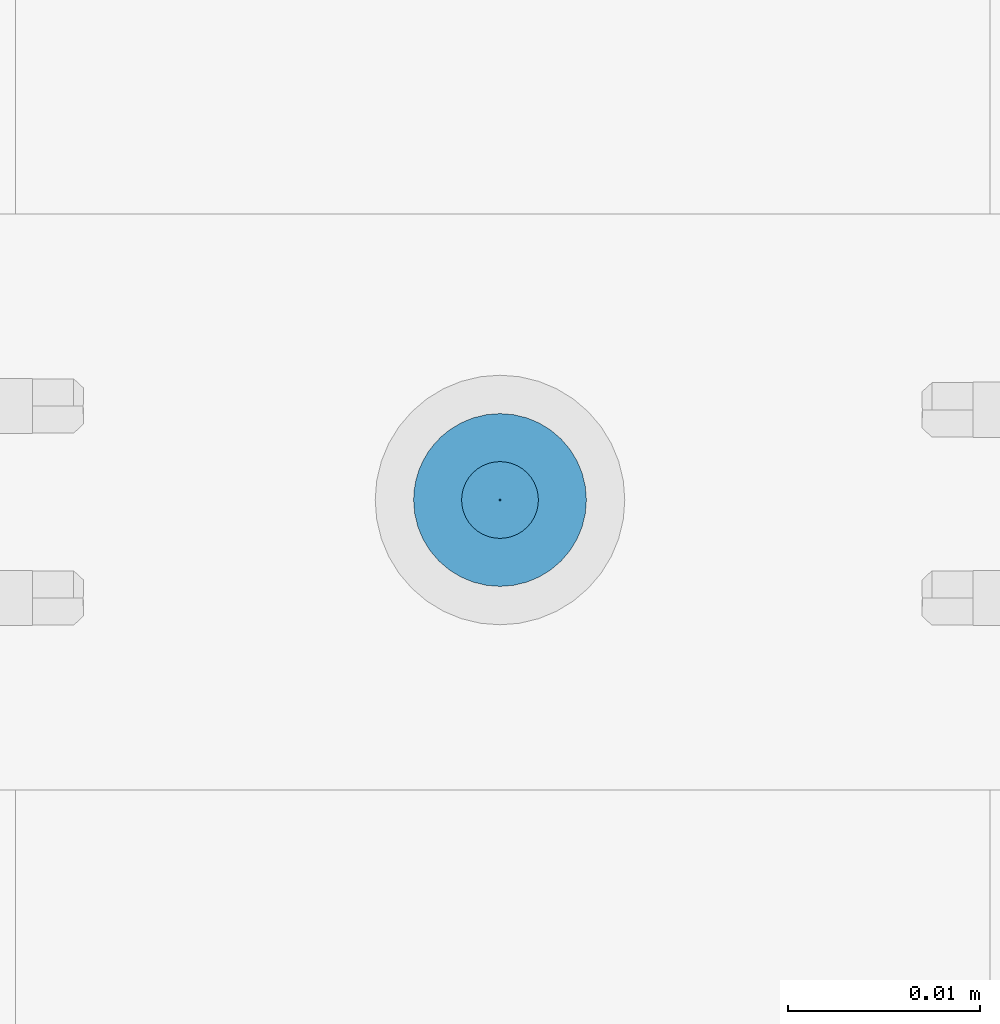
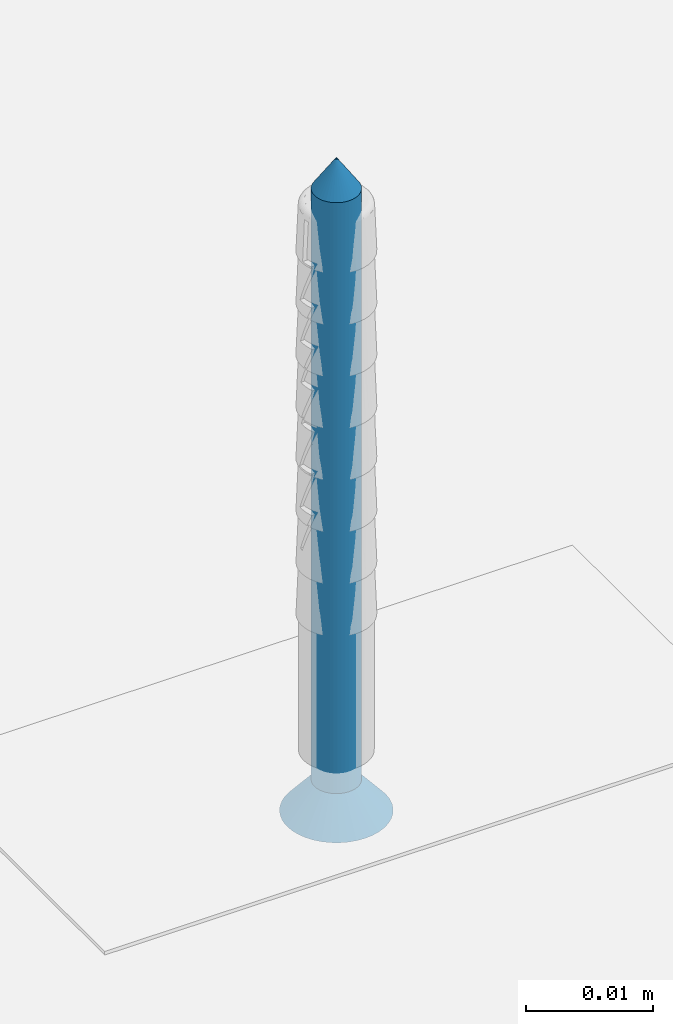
# One storey, part 9 of 62: 1 slab.
"""IFC2X3 building model written with IfcOpenShell, lengths in millimetres."""

from ifc_helpers import new_model, entity, si_unit, converted_unit, direction, frame, origin, origin_with_axes, place, context, project, spatial, faceted_brep, element, save


model = new_model("IFC2X3")

# Units and contexts
model_context = context("Model", 3, precision=1e-05, world=origin(), true_north=direction((0.0, 1.0, 0.0)))
ifc_project = project(units=[si_unit("LENGTHUNIT", "METRE", prefix="MILLI"), si_unit("AREAUNIT", "SQUARE_METRE"), si_unit("VOLUMEUNIT", "CUBIC_METRE"), converted_unit("PLANEANGLEUNIT", "DEGREE", entity("IfcPlaneAngleMeasure", 0.01745), si_unit("PLANEANGLEUNIT", "RADIAN"), dimensions=[0, 0, 0, 0, 0, 0, 0]), si_unit("SOLIDANGLEUNIT", "STERADIAN"), si_unit("MASSUNIT", "GRAM"), si_unit("TIMEUNIT", "SECOND"), si_unit("THERMODYNAMICTEMPERATUREUNIT", "DEGREE_CELSIUS"), si_unit("LUMINOUSINTENSITYUNIT", "LUMEN")], contexts=[model_context])

# Site, building, storey
site_placement = place(None, origin_with_axes())
site = spatial("IfcSite", under=ifc_project, at=site_placement, Name="Default Site", CompositionType="ELEMENT")
building_placement = place(site_placement, origin_with_axes())
building = spatial("IfcBuilding", under=site, at=building_placement, Name="Default Building", CompositionType="ELEMENT")
storey_placement = place(building_placement, origin_with_axes())
storey = spatial("IfcBuildingStorey", under=building, at=storey_placement, Name="Default Building Storey", CompositionType="ELEMENT", Elevation=0.0)

# Slab
slab_placement = place(storey_placement, frame((6216.179814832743, 408.8922130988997, 1384.974461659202), z_axis=(-6.858158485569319e-13, 6.095830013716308e-13, -1.0), x_axis=(-1.647602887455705e-11, -1.0, -6.095830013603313e-13)))
element("IfcSlab", 1, at=slab_placement, inside=storey, Name="Stalowe elementy mocujące", context=model_context, shape_type="Brep", body=[
    faceted_brep([(-1438.31414949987, 3453.283223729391, -0.4642567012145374), (-1435.814149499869, 3453.283223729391, -3.464256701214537), (-1435.78952618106, 3452.97035479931, -3.464256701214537), (-1438.258747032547, 3452.57926863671, -0.4642567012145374), (-1435.71626253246, 3452.665189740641, -3.464256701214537), (-1438.093903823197, 3451.892647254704, -0.4642567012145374), (-1435.596162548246, 3452.375242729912, -3.464256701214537), (-1437.823678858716, 3451.240266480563, -0.4642567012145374), (-1435.432183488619, 3452.107653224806, -3.464256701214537), (-1437.454725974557, 3450.638190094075, -0.4642567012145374), (-1435.228363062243, 3451.869010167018, -3.464256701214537), (-1436.996130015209, 3450.101243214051, -0.4642567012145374), (-1434.989720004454, 3451.665189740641, -3.464256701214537), (-1436.459183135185, 3449.642647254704, -0.4642567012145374), (-1434.722130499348, 3451.501210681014, -3.464256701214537), (-1435.857106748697, 3449.273694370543, -0.4642567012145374), (-1434.432183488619, 3451.381110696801, -3.464256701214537), (-1435.204725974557, 3449.003469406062, -0.4642567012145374), (-1434.12701842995, 3451.307847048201, -3.464256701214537), (-1434.51810459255, 3448.838626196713, -0.4642567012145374), (-1433.814149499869, 3451.283223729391, -3.464256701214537), (-1433.814149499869, 3448.783223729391, -0.4642567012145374), (-1433.501280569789, 3451.307847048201, -3.464256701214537), (-1433.110194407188, 3448.838626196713, -0.4642567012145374), (-1433.19611551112, 3451.381110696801, -3.464256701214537), (-1432.423573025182, 3449.003469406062, -0.4642567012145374), (-1432.906168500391, 3451.501210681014, -3.464256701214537), (-1431.771192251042, 3449.273694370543, -0.4642567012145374), (-1432.638578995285, 3451.665189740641, -3.464256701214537), (-1431.169115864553, 3449.642647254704, -0.4642567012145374), (-1432.399935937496, 3451.869010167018, -3.464256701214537), (-1430.63216898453, 3450.101243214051, -0.4642567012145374), (-1432.196115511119, 3452.107653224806, -3.464256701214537), (-1430.173573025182, 3450.638190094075, -0.4642567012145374), (-1432.032136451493, 3452.375242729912, -3.464256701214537), (-1429.804620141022, 3451.240266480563, -0.4642567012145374), (-1431.912036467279, 3452.665189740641, -3.464256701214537), (-1429.534395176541, 3451.892647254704, -0.4642567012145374), (-1431.838772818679, 3453.596092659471, -3.464256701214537), (-1429.369551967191, 3453.987178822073, -0.4642567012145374), (-1429.314149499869, 3453.283223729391, -0.4642567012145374), (-1431.81414949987, 3453.283223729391, -3.464256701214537), (-1429.369551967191, 3452.57926863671, -0.4642567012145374), (-1431.838772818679, 3452.97035479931, -3.464256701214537), (-1431.912036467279, 3453.901257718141, -3.464256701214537), (-1429.534395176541, 3454.673800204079, -0.4642567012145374), (-1432.032136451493, 3454.19120472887, -3.464256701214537), (-1429.804620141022, 3455.326180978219, -0.4642567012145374), (-1432.196115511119, 3454.458794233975, -3.464256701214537), (-1430.173573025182, 3455.928257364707, -0.4642567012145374), (-1432.399935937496, 3454.697437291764, -3.464256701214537), (-1430.63216898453, 3456.465204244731, -0.4642567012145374), (-1432.638578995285, 3454.901257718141, -3.464256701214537), (-1431.169115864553, 3456.923800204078, -0.4642567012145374), (-1432.906168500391, 3455.065236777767, -3.464256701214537), (-1431.771192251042, 3457.292753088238, -0.4642567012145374), (-1433.19611551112, 3455.185336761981, -3.464256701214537), (-1432.423573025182, 3457.562978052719, -0.4642567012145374), (-1433.501280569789, 3455.258600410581, -3.464256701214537), (-1433.110194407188, 3457.727821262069, -0.4642567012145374), (-1433.814149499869, 3455.283223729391, -3.464256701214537), (-1433.814149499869, 3457.783223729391, -0.4642567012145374), (-1434.34306778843, 3457.752031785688, -0.4642567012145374), (-1434.12701842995, 3455.258600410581, -3.464256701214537), (-1434.432183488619, 3455.185336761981, -3.464256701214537), (-1434.864653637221, 3457.658888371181, -0.4642567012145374), (-1435.371676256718, 3457.505084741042, -0.4642567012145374), (-1434.722130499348, 3455.065236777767, -3.464256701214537), (-1435.857106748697, 3457.292753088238, -0.4642567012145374), (-1434.989720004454, 3454.901257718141, -3.464256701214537), (-1435.228363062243, 3454.697437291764, -3.464256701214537), (-1436.314215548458, 3457.024836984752, -0.4642567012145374), (-1436.736665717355, 3456.705050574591, -0.4642567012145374), (-1437.11860079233, 3456.337827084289, -0.4642567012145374), (-1437.454725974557, 3455.928257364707, -0.4642567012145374), (-1435.432183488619, 3454.458794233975, -3.464256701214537), (-1435.596162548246, 3454.19120472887, -3.464256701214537), (-1437.823678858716, 3455.326180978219, -0.4642567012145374), (-1435.71626253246, 3453.901257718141, -3.464256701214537), (-1438.093903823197, 3454.673800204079, -0.4642567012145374), (-1435.78952618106, 3453.596092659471, -3.464256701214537), (-1438.258747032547, 3453.987178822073, -0.4642567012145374), (-1434.205235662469, 3455.752444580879, 0.2007375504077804), (-1433.814149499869, 3455.78322372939, 0.2007375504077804), (-1434.586691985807, 3455.660865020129, 0.2007375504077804), (-1434.949125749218, 3455.510740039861, 0.2007375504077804), (-1435.283612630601, 3455.305766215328, 0.2007375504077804), (-1435.581916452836, 3455.050990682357, 0.2007375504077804), (-1435.836691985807, 3454.752686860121, 0.2007375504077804), (-1436.04166581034, 3454.41819997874, 0.2007375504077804), (-1436.191790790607, 3454.055766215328, 0.2007375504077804), (-1436.283370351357, 3453.674309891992, 0.2007375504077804), (-1436.314149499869, 3453.283223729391, 0.2007375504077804), (-1436.283370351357, 3452.892137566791, 0.2007375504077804), (-1436.191790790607, 3452.510681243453, 0.2007375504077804), (-1436.04166581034, 3452.148247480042, 0.2007375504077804), (-1435.836691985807, 3451.81376059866, 0.200737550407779), (-1435.581916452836, 3451.515456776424, 0.2007375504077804), (-1435.283612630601, 3451.260681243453, 0.2007375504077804), (-1434.949125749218, 3451.05570741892, 0.2007375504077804), (-1434.586691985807, 3450.905582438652, 0.2007375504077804), (-1433.423063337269, 3450.814002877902, 0.2007375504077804), (-1433.814149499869, 3450.783223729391, 0.2007375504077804), (-1434.205235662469, 3450.814002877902, 0.2007375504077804), (-1433.041607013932, 3450.905582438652, 0.2007375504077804), (-1432.67917325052, 3451.05570741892, 0.2007375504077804), (-1432.344686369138, 3451.260681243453, 0.2007375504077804), (-1432.046382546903, 3451.515456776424, 0.2007375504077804), (-1431.791607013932, 3451.81376059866, 0.2007375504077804), (-1431.586633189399, 3452.148247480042, 0.2007375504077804), (-1431.436508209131, 3452.510681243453, 0.2007375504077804), (-1431.344928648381, 3452.892137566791, 0.2007375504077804), (-1431.314149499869, 3453.283223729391, 0.2007375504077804), (-1431.344928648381, 3453.674309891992, 0.2007375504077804), (-1431.436508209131, 3454.055766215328, 0.2007375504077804), (-1431.586633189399, 3454.41819997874, 0.2007375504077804), (-1431.791607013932, 3454.752686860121, 0.2007375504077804), (-1432.046382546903, 3455.050990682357, 0.2007375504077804), (-1432.344686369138, 3455.305766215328, 0.2007375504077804), (-1432.67917325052, 3455.510740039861, 0.2007375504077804), (-1433.041607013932, 3455.660865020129, 0.2007375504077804), (-1433.423063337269, 3455.752444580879, 0.2007375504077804), (-1433.814149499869, 3453.283223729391, -63.46425670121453), (-1435.789526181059, 3452.97035479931, -60.46425670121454), (-1435.814149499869, 3453.283223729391, -60.46425670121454), (-1435.716262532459, 3452.665189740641, -60.46425670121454), (-1435.596162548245, 3452.375242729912, -60.46425670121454), (-1435.432183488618, 3452.107653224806, -60.46425670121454), (-1435.228363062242, 3451.869010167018, -60.46425670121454), (-1434.989720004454, 3451.665189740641, -60.46425670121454), (-1434.722130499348, 3451.501210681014, -60.46425670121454), (-1434.432183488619, 3451.381110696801, -60.46425670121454), (-1434.127018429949, 3451.307847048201, -60.46425670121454), (-1433.814149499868, 3451.283223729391, -60.46425670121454), (-1433.501280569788, 3451.307847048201, -60.46425670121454), (-1433.196115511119, 3451.381110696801, -60.46425670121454), (-1432.90616850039, 3451.501210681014, -60.46425670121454), (-1432.638578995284, 3451.665189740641, -60.46425670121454), (-1432.399935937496, 3451.869010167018, -60.46425670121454), (-1432.196115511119, 3452.107653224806, -60.46425670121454), (-1432.032136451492, 3452.375242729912, -60.46425670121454), (-1431.912036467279, 3452.665189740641, -60.46425670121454), (-1431.838772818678, 3452.97035479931, -60.46425670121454), (-1431.814149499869, 3453.283223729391, -60.46425670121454), (-1431.838772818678, 3453.596092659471, -60.46425670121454), (-1431.912036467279, 3453.901257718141, -60.46425670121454), (-1432.032136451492, 3454.19120472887, -60.46425670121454), (-1432.196115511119, 3454.458794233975, -60.46425670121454), (-1432.399935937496, 3454.697437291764, -60.46425670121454), (-1432.638578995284, 3454.901257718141, -60.46425670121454), (-1432.90616850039, 3455.065236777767, -60.46425670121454), (-1433.196115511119, 3455.185336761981, -60.46425670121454), (-1433.501280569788, 3455.258600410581, -60.46425670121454), (-1433.814149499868, 3455.283223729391, -60.46425670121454), (-1434.127018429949, 3455.258600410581, -60.46425670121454), (-1434.432183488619, 3455.185336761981, -60.46425670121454), (-1434.722130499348, 3455.065236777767, -60.46425670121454), (-1434.989720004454, 3454.901257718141, -60.46425670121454), (-1435.228363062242, 3454.697437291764, -60.46425670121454), (-1435.432183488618, 3454.458794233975, -60.46425670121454), (-1435.596162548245, 3454.19120472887, -60.46425670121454), (-1435.716262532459, 3453.901257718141, -60.46425670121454), (-1435.789526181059, 3453.596092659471, -60.46425670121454), (-1435.814149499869, 3453.783223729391, 0.04999999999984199), (-1436.04166581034, 3454.41819997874, 0.04999999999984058), (-1436.191790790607, 3454.055766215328, 0.04999999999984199), (-1435.814149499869, 3452.783223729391, 0.04999999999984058), (-1434.314149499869, 3453.783223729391, 0.04999999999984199), (-1434.314149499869, 3455.28322372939, 0.04999999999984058), (-1433.314149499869, 3455.28322372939, 0.04999999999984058), (-1433.314149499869, 3453.783223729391, 0.04999999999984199), (-1431.814149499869, 3453.783223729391, 0.04999999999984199), (-1431.814149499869, 3452.783223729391, 0.04999999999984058), (-1433.314149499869, 3452.783223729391, 0.04999999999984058), (-1433.314149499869, 3451.283223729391, 0.04999999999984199), (-1434.314149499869, 3451.283223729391, 0.04999999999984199), (-1434.314149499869, 3452.783223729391, 0.04999999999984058), (-1436.283370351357, 3453.674309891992, 0.04999999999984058), (-1436.314149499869, 3453.283223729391, 0.04999999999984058), (-1436.283370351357, 3452.892137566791, 0.04999999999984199), (-1436.191790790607, 3452.510681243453, 0.04999999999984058), (-1436.04166581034, 3452.148247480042, 0.04999999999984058), (-1435.836691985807, 3451.81376059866, 0.04999999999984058), (-1435.581916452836, 3451.515456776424, 0.04999999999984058), (-1435.283612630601, 3451.260681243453, 0.04999999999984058), (-1434.949125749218, 3451.05570741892, 0.04999999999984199), (-1434.586691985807, 3450.905582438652, 0.04999999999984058), (-1434.205235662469, 3450.814002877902, 0.04999999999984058), (-1433.814149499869, 3450.783223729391, 0.04999999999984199), (-1433.423063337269, 3450.814002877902, 0.04999999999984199), (-1433.041607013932, 3450.905582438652, 0.04999999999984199), (-1432.67917325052, 3451.05570741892, 0.04999999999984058), (-1432.344686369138, 3451.260681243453, 0.04999999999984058), (-1432.046382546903, 3451.515456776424, 0.04999999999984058), (-1431.791607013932, 3451.81376059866, 0.04999999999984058), (-1431.586633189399, 3452.148247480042, 0.04999999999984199), (-1431.436508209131, 3452.510681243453, 0.04999999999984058), (-1431.344928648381, 3452.892137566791, 0.04999999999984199), (-1431.314149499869, 3453.283223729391, 0.04999999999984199), (-1431.344928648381, 3453.674309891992, 0.04999999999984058), (-1431.436508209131, 3454.055766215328, 0.04999999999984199), (-1431.586633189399, 3454.41819997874, 0.04999999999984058), (-1431.791607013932, 3454.752686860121, 0.04999999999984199), (-1432.046382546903, 3455.050990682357, 0.04999999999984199), (-1432.344686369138, 3455.305766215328, 0.04999999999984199), (-1432.67917325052, 3455.510740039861, 0.04999999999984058), (-1433.041607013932, 3455.660865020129, 0.04999999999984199), (-1433.423063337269, 3455.752444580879, 0.04999999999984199), (-1433.814149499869, 3455.78322372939, 0.04999999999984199), (-1434.205235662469, 3455.752444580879, 0.04999999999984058), (-1434.586691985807, 3455.660865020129, 0.04999999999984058), (-1434.949125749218, 3455.510740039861, 0.04999999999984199), (-1435.283612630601, 3455.305766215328, 0.04999999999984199), (-1435.581916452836, 3455.050990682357, 0.04999999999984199), (-1435.836691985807, 3454.752686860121, 0.04999999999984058), (-1434.314149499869, 3452.783223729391, -1.79926244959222), (-1434.314149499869, 3451.283223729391, -1.799262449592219), (-1433.314149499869, 3451.283223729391, -1.799262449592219), (-1433.314149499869, 3452.783223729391, -1.79926244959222), (-1431.81414949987, 3452.783223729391, -1.79926244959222), (-1431.81414949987, 3453.783223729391, -1.799262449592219), (-1433.314149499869, 3453.783223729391, -1.799262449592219), (-1433.314149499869, 3455.28322372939, -1.79926244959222), (-1434.314149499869, 3455.28322372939, -1.79926244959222), (-1434.314149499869, 3453.783223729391, -1.799262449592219), (-1435.814149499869, 3453.783223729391, -1.799262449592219), (-1435.814149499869, 3452.783223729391, -1.79926244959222)], [[[0, 1, 2, 3]], [[4, 5, 3, 2]], [[6, 7, 5, 4]], [[7, 6, 8, 9]], [[10, 11, 9, 8]], [[11, 10, 12, 13]], [[14, 15, 13, 12]], [[16, 17, 15, 14]], [[17, 16, 18, 19]], [[20, 21, 19, 18]], [[21, 20, 22, 23]], [[24, 25, 23, 22]], [[26, 27, 25, 24]], [[27, 26, 28, 29]], [[30, 31, 29, 28]], [[31, 30, 32, 33]], [[34, 35, 33, 32]], [[36, 37, 35, 34]], [[38, 39, 40, 41]], [[41, 40, 42, 43]], [[37, 36, 43, 42]], [[44, 45, 39, 38]], [[46, 47, 45, 44]], [[47, 46, 48, 49]], [[50, 51, 49, 48]], [[51, 50, 52, 53]], [[54, 55, 53, 52]], [[56, 57, 55, 54]], [[57, 56, 58, 59]], [[60, 61, 59, 58]], [[62, 61, 63]], [[61, 60, 63]], [[63, 64, 62]], [[64, 65, 62]], [[66, 65, 64]], [[64, 67, 66]], [[67, 68, 66]], [[69, 70, 71]], [[70, 72, 71]], [[71, 68, 69]], [[68, 67, 69]], [[70, 73, 72]], [[74, 73, 75]], [[73, 70, 75]], [[76, 77, 74, 75]], [[78, 79, 77, 76]], [[79, 78, 80, 81]], [[1, 0, 81, 80]], [[82, 83, 62]], [[83, 61, 62]], [[62, 65, 82]], [[65, 84, 82]], [[66, 68, 84]], [[68, 85, 84]], [[84, 65, 66]], [[86, 85, 71]], [[85, 68, 71]], [[72, 73, 87]], [[87, 86, 72]], [[86, 71, 72]], [[88, 87, 74]], [[87, 73, 74]], [[77, 89, 88, 74]], [[79, 90, 89, 77]], [[90, 79, 81, 91]], [[0, 92, 91, 81]], [[92, 0, 3, 93]], [[5, 94, 93, 3]], [[7, 95, 94, 5]], [[95, 7, 9, 96]], [[11, 97, 96, 9]], [[97, 11, 13, 98]], [[15, 99, 98, 13]], [[17, 100, 99, 15]], [[23, 101, 102, 21]], [[21, 102, 103, 19]], [[100, 17, 19, 103]], [[25, 104, 101, 23]], [[27, 105, 104, 25]], [[105, 27, 29, 106]], [[31, 107, 106, 29]], [[107, 31, 33, 108]], [[35, 109, 108, 33]], [[37, 110, 109, 35]], [[110, 37, 42, 111]], [[40, 112, 111, 42]], [[112, 40, 39, 113]], [[45, 114, 113, 39]], [[47, 115, 114, 45]], [[115, 47, 49, 116]], [[51, 117, 116, 49]], [[117, 51, 53, 118]], [[55, 119, 118, 53]], [[57, 120, 119, 55]], [[120, 57, 59, 121]], [[61, 83, 121, 59]], [[122, 123, 124]], [[122, 125, 123]], [[122, 126, 125]], [[127, 126, 122]], [[122, 128, 127]], [[129, 128, 122]], [[122, 130, 129]], [[122, 131, 130]], [[132, 131, 122]], [[122, 133, 132]], [[134, 133, 122]], [[122, 135, 134]], [[122, 136, 135]], [[137, 136, 122]], [[122, 138, 137]], [[139, 138, 122]], [[122, 140, 139]], [[122, 141, 140]], [[142, 141, 122]], [[122, 143, 142]], [[144, 143, 122]], [[122, 145, 144]], [[122, 146, 145]], [[147, 146, 122]], [[122, 148, 147]], [[149, 148, 122]], [[122, 150, 149]], [[122, 151, 150]], [[152, 151, 122]], [[122, 153, 152]], [[154, 153, 122]], [[122, 155, 154]], [[122, 156, 155]], [[157, 156, 122]], [[122, 158, 157]], [[159, 158, 122]], [[122, 160, 159]], [[122, 161, 160]], [[162, 161, 122]], [[124, 162, 122]], [[1, 124, 123, 2]], [[125, 4, 2, 123]], [[126, 6, 4, 125]], [[6, 126, 127, 8]], [[128, 10, 8, 127]], [[10, 128, 129, 12]], [[130, 14, 12, 129]], [[131, 16, 14, 130]], [[16, 131, 132, 18]], [[133, 20, 18, 132]], [[20, 133, 134, 22]], [[135, 24, 22, 134]], [[136, 26, 24, 135]], [[26, 136, 137, 28]], [[138, 30, 28, 137]], [[30, 138, 139, 32]], [[140, 34, 32, 139]], [[141, 36, 34, 140]], [[144, 38, 41, 143]], [[143, 41, 43, 142]], [[36, 141, 142, 43]], [[145, 44, 38, 144]], [[146, 46, 44, 145]], [[46, 146, 147, 48]], [[148, 50, 48, 147]], [[50, 148, 149, 52]], [[150, 54, 52, 149]], [[151, 56, 54, 150]], [[56, 151, 152, 58]], [[153, 60, 58, 152]], [[60, 153, 154, 63]], [[155, 64, 63, 154]], [[156, 67, 64, 155]], [[67, 156, 157, 69]], [[158, 70, 69, 157]], [[70, 158, 159, 75]], [[160, 76, 75, 159]], [[161, 78, 76, 160]], [[78, 161, 162, 80]], [[124, 1, 80, 162]], [[163, 164, 165, 166]], [[163, 167, 168, 169, 170, 171, 172, 173, 174, 175, 176, 166, 165, 177, 178, 179, 180, 181, 182, 183, 184, 185, 186, 187, 188, 189, 190, 191, 192, 193, 194, 195, 196, 197, 198, 199, 200, 201, 202, 203, 204, 205, 206, 207, 208, 209, 210, 211, 212, 213, 214, 164]], [[199, 198, 112, 113]], [[113, 114, 200, 199]], [[114, 115, 201, 200]], [[202, 201, 115, 116]], [[116, 117, 203, 202]], [[204, 203, 117, 118]], [[118, 119, 205, 204]], [[119, 120, 206, 205]], [[207, 206, 120, 121]], [[121, 83, 208, 207]], [[209, 208, 83, 82]], [[82, 84, 210, 209]], [[84, 85, 211, 210]], [[212, 211, 85, 86]], [[86, 87, 213, 212]], [[214, 213, 87, 88]], [[88, 89, 164, 214]], [[89, 90, 165, 164]], [[92, 93, 179, 178]], [[91, 92, 178, 177]], [[177, 165, 90, 91]], [[93, 94, 180, 179]], [[94, 95, 181, 180]], [[182, 181, 95, 96]], [[96, 97, 183, 182]], [[184, 183, 97, 98]], [[98, 99, 185, 184]], [[99, 100, 186, 185]], [[187, 186, 100, 103]], [[103, 102, 188, 187]], [[189, 188, 102, 101]], [[101, 104, 190, 189]], [[104, 105, 191, 190]], [[192, 191, 105, 106]], [[106, 107, 193, 192]], [[194, 193, 107, 108]], [[108, 109, 195, 194]], [[109, 110, 196, 195]], [[197, 196, 110, 111]], [[111, 112, 198, 197]], [[215, 216, 217, 218, 219, 220, 221, 222, 223, 224, 225, 226]], [[216, 175, 174, 217]], [[215, 176, 175, 216]], [[226, 166, 176, 215]], [[225, 163, 166, 226]], [[224, 167, 163, 225]], [[223, 168, 167, 224]], [[222, 169, 168, 223]], [[221, 170, 169, 222]], [[220, 171, 170, 221]], [[219, 172, 171, 220]], [[218, 173, 172, 219]], [[217, 174, 173, 218]]]),
])

save(model, "model.ifc")
